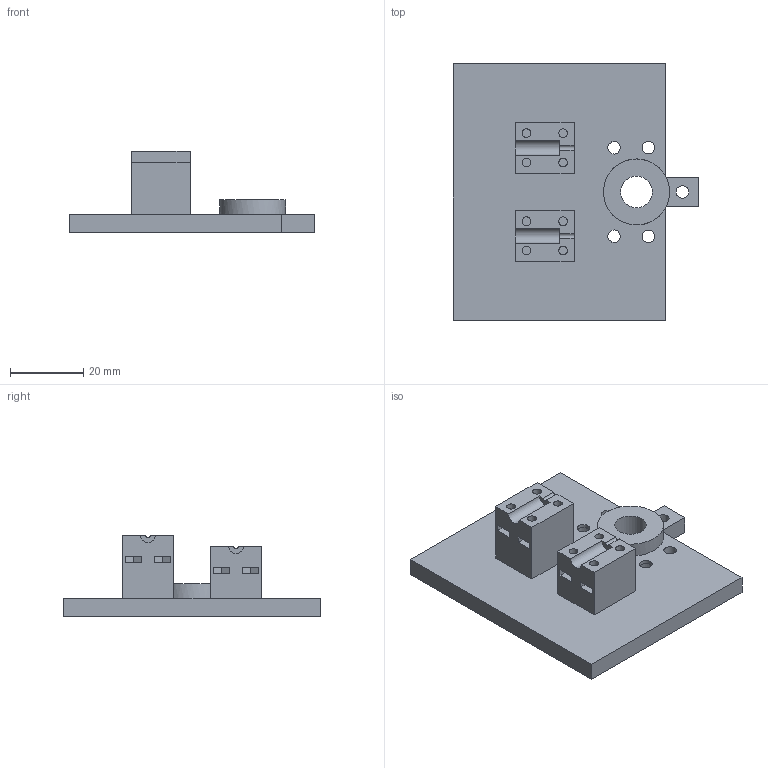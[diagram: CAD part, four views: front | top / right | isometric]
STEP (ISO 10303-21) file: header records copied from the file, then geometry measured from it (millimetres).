
FILE_DESCRIPTION(('Open CASCADE Model'),'2;1');
FILE_NAME('P04-foot.step', '', ('Noah Wilson'), (''), '', '', '');
FILE_SCHEMA(('AUTOMOTIVE_DESIGN { 1 0 10303 214 1 1 1 1 }'));
Length unit declared in the file: millimetre
Products named in the file (1): COMPOUND
Bounding box: 67 x 70 x 22.2 mm (x, y, z)
Volume: 26707 mm3; surface area: 13467.8 mm2
Topology: 1 solids, 1 shells, 176 faces, 473 edges, 314 vertices
Faces by surface type: plane 147, cylinder 29
Full cylindrical faces by diameter (mm): 2.4 x16, 3.4 x5, 5.8 x2, 8.6 x1, 18 x1
Entity records: 11440 total; most frequent: CARTESIAN_POINT 2166, DIRECTION 1605, LINE 1019, VECTOR 1019, ORIENTED_EDGE 946, PCURVE 946, DEFINITIONAL_REPRESENTATION 946, EDGE_CURVE 473
